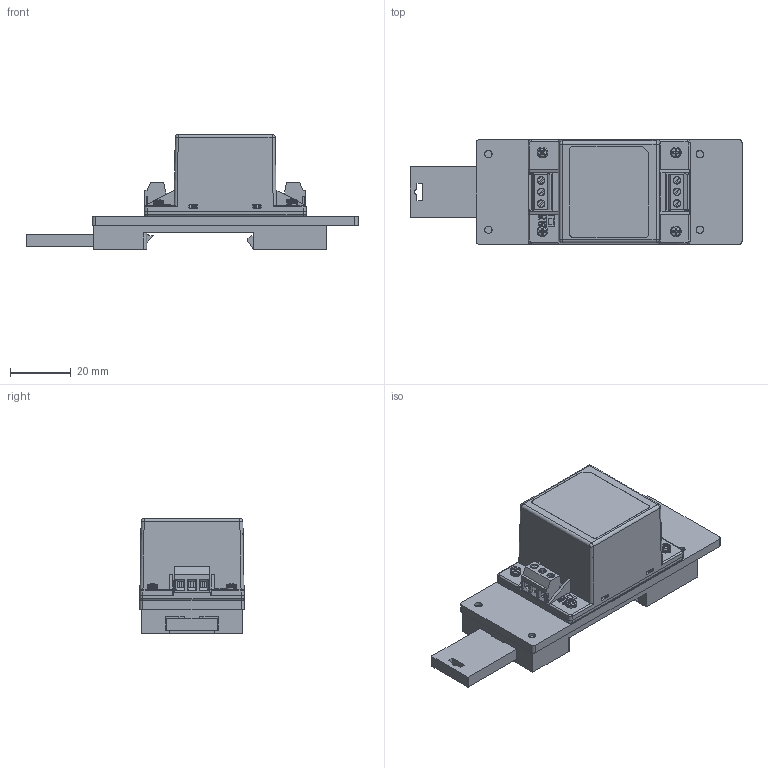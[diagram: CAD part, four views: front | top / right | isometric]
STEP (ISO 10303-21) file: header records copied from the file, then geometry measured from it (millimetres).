
FILE_DESCRIPTION(/* description */ (''),/* implementation_level */ '2;1');
FILE_NAME(/* name */ 'C:\Users\QIU\Desktop\MJA06C DIN-RAIL+夾扣組合.stp',/* time_stamp */ '2018-07-04T09:47:20+08:00',/* author */ ('QIU'),/* organization */ (''),/* preprocessor_version */ 'ST-DEVELOPER v15.2',/* originating_system */ 'Autodesk Inventor 2014',/* authorisation */ '');
FILE_SCHEMA (('AUTOMOTIVE_DESIGN { 1 0 10303 214 3 1 1 }'));
Length unit declared in the file: millimetre
Products named in the file (18): MJA06C-MKA10C  DIN-RAIL 金屬固定片(0
83-FS-2)(0; A072-CLIP-03 底座(0版); A072-CLIP-03 壓縮板(0版); A072-CLIP-03 彈簧(0版); A072-CLIP-03 夾扣組合(0版); MJAI06C CASE(081-CMJAI-1)(5版增加LED\X2\570D
7246\X0\)); MJAI06C BASE(082-BMJAI-1)(5\X2\72486A62571367F179FB9664
\X0\); MJAI06C 端子台(ANYTEK); MJAI06C 副板(5版挖灌膠槽); MJA06C-MJWI06C 機構組合; 螺絲平華司; 螺絲彈簧華司; 螺絲M3x0.5-8; M3x0.5-8組合; 彈簧華司; 螺絲M2x0.4-6; M2x0.4-6組合; DIN-RAIL+產品(6-10W)+固定片(
金屬)總組合
Bounding box: 109.45 x 34.5 x 37.9 mm (x, y, z)
Volume: 28492.2 mm3; surface area: 37616.3 mm2
Topology: 29 solids, 29 shells, 1496 faces, 3897 edges, 2547 vertices
Faces by surface type: plane 914, cylinder 256, bspline 160, cone 100, torus 48, sphere 18
Full cylindrical faces by diameter (mm): 0.6 x8, 0.7 x7, 1 x3, 1.1 x6, 1.3 x3, 1.4 x7, 1.5 x2, 1.567 x4, 1.8 x5, 2 x8, 2.3 x8, 2.4 x6, 2.459 x4, 2.5 x10, 2.729 x4, 2.8 x4, 3 x4, 3.4 x4, 3.5 x8, 5.5 x4, 5.8 x4, 6 x4
Entity records: 37235 total; most frequent: CARTESIAN_POINT 9872, ORIENTED_EDGE 5692, DIRECTION 5020, EDGE_CURVE 2844, LINE 2012, VECTOR 2012, VERTEX_POINT 1923, AXIS2_PLACEMENT_3D 1504
